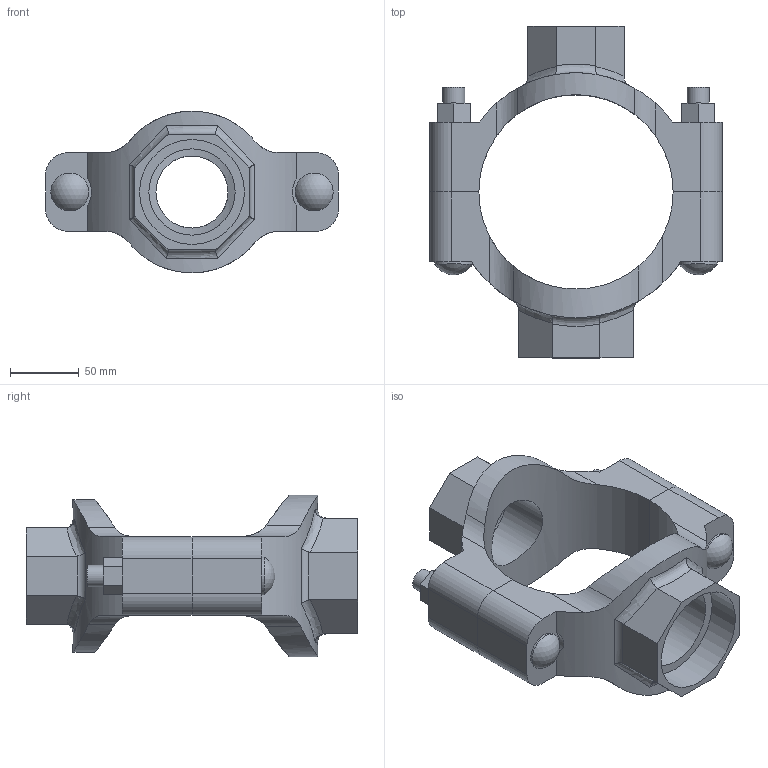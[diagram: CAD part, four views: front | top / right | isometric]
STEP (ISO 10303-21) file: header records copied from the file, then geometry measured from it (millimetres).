
FILE_DESCRIPTION(/* description */ ('VIC MECH-T BRANCH OUTLET CROSS STYLE 920N (THD)','CAx-IF Rec.Pracs.---Representation and Presentation of Product Manufacturing Information (PMI)---4.0---2014-10-13'),/* implementation_level */ '2;1');
FILE_NAME(/* name */ 'C:\Users\Vjadhav\AppData\Roaming\Autodesk\ApplicationPlugins\Back Up\Victaulic_IPS_Mechanical-Cross Outlet_Style 920N (FPT)\Victaulic_IPS_Mechanical-Cross Outlet_05.0x02.0x02.5 (76.1) (125x50x65).stp',/* time_stamp */ '2020-08-06T18:59:08+05:00',/* author */ ('Vjadhav'),/* organization */ ('Victaulic'),/* preprocessor_version */ 'ST-DEVELOPER v17.2',/* originating_system */ 'Autodesk Inventor 2019',/* authorisation */ '');
FILE_SCHEMA (('AP242_MANAGED_MODEL_BASED_3D_ENGINEERING_MIM_LF { 1 0 10303 442 1 1 4 }'));
Length unit declared in the file: inch
Products named in the file (3): 920NT-05.0x02.0x02.5 (76.1); 920T-05.0x02.0; 920T-05.0x02.5 (76.1)
Assembly tree (2 placements, depth 2):
  920NT-05.0x02.0x02.5 (76.1)
    920T-05.0x02.0
    920T-05.0x02.5 (76.1)
Bounding box: 212.85 x 241.3 x 117.56 mm (x, y, z)
Volume: 944412.5 mm3; surface area: 170194.6 mm2
Topology: 2 solids, 2 shells, 130 faces, 344 edges, 232 vertices
Faces by surface type: plane 68, cylinder 48, bspline 8, torus 4, sphere 2
Full cylindrical faces by diameter (mm): 15.875 x4, 27.496 x2, 52.387 x1, 60.325 x1, 62.738 x1, 76.2 x1
Entity records: 5224 total; most frequent: CARTESIAN_POINT 1765, ORIENTED_EDGE 688, DIRECTION 638, EDGE_CURVE 344, VERTEX_POINT 232, AXIS2_PLACEMENT_3D 227, LINE 184, VECTOR 184
